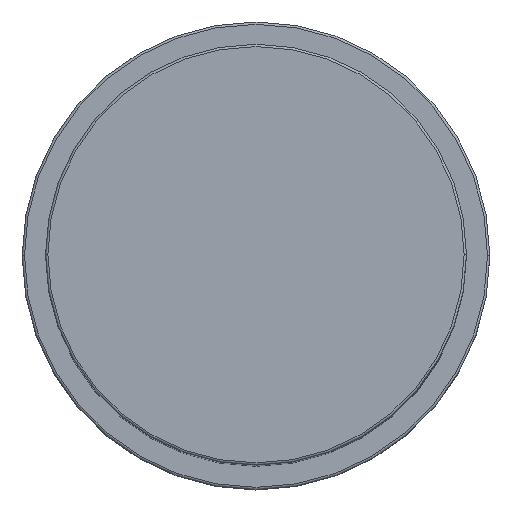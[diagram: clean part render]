
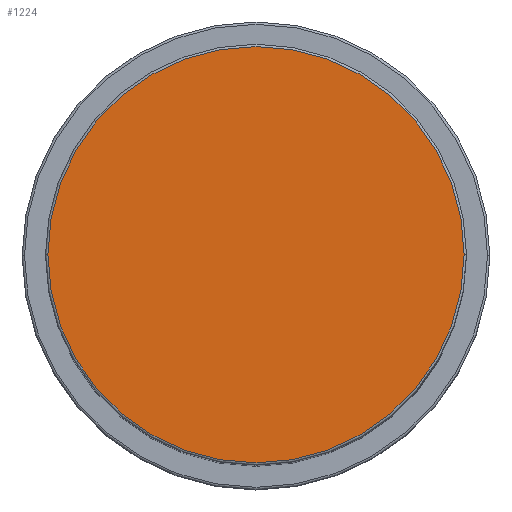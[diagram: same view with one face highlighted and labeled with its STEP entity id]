
A CAD part, top view. The second image highlights one B-rep face of the part: STEP entity #1224.
In plain terms, the highlighted planar face has unit normal (0, 0, 1).
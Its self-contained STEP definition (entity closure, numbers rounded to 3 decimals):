
#4 = DIRECTION ( 'NONE',  ( 1., 0., 0. ) ) ;
#114 = AXIS2_PLACEMENT_3D ( 'NONE', #531, #1683, #4 ) ;
#140 = EDGE_LOOP ( 'NONE', ( #346, #1660 ) ) ;
#163 = CIRCLE ( 'NONE', #1403, 44.5 ) ;
#177 = CARTESIAN_POINT ( 'NONE',  ( 44.5, 0., 159. ) ) ;
#297 = EDGE_CURVE ( 'NONE', #716, #301, #163, .T. ) ;
#301 = VERTEX_POINT ( 'NONE', #177 ) ;
#346 = ORIENTED_EDGE ( 'NONE', *, *, #799, .T. ) ;
#415 = CARTESIAN_POINT ( 'NONE',  ( -44.5, 0., 159. ) ) ;
#436 = DIRECTION ( 'NONE',  ( 0., 0., 1. ) ) ;
#531 = CARTESIAN_POINT ( 'NONE',  ( 0., 0., 159. ) ) ;
#701 = DIRECTION ( 'NONE',  ( 1., 0., 0. ) ) ;
#716 = VERTEX_POINT ( 'NONE', #415 ) ;
#720 = CIRCLE ( 'NONE', #114, 44.5 ) ;
#799 = EDGE_CURVE ( 'NONE', #301, #716, #720, .T. ) ;
#828 = DIRECTION ( 'NONE',  ( 0., 0., 1. ) ) ;
#876 = FACE_OUTER_BOUND ( 'NONE', #140, .T. ) ;
#897 = AXIS2_PLACEMENT_3D ( 'NONE', #1505, #828, #1799 ) ;
#1155 = CARTESIAN_POINT ( 'NONE',  ( 0., 0., 159. ) ) ;
#1224 = ADVANCED_FACE ( 'NONE', ( #876 ), #1658, .T. ) ;
#1403 = AXIS2_PLACEMENT_3D ( 'NONE', #1155, #436, #701 ) ;
#1505 = CARTESIAN_POINT ( 'NONE',  ( 0., 0., 159. ) ) ;
#1658 = PLANE ( 'NONE',  #897 ) ;
#1660 = ORIENTED_EDGE ( 'NONE', *, *, #297, .T. ) ;
#1683 = DIRECTION ( 'NONE',  ( 0., 0., 1. ) ) ;
#1799 = DIRECTION ( 'NONE',  ( 1., 0., 0. ) ) ;
